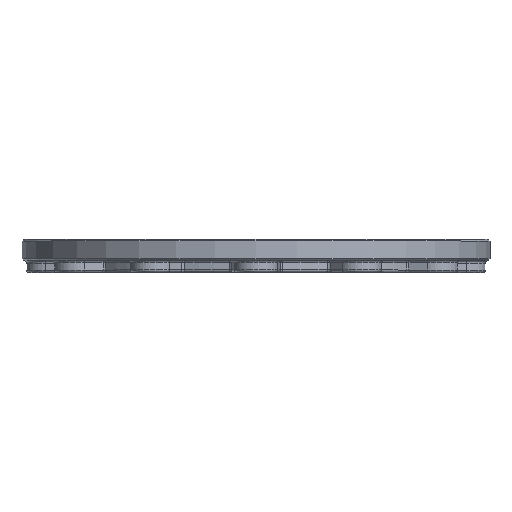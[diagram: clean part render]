
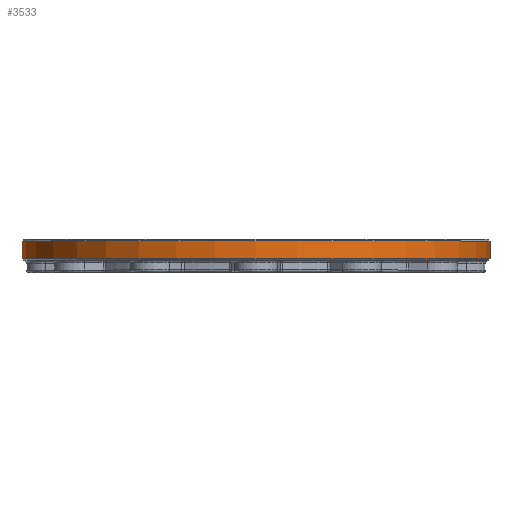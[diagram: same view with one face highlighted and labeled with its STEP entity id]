
A CAD part, top view. The second image highlights one B-rep face of the part: STEP entity #3533.
In plain terms, the highlighted cylindrical face has radius 197.5 mm (diameter 395 mm), a full revolution.
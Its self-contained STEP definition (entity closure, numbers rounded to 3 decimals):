
#571=ORIENTED_EDGE('',*,*,#1597,.T.);
#572=ORIENTED_EDGE('',*,*,#1598,.T.);
#1597=EDGE_CURVE('',#2121,#2121,#2435,.F.);
#1598=EDGE_CURVE('',#2122,#2122,#2436,.T.);
#2121=VERTEX_POINT('',#5891);
#2122=VERTEX_POINT('',#5893);
#2435=CIRCLE('',#3848,197.5);
#2436=CIRCLE('',#3849,197.5);
#2811=EDGE_LOOP('',(#571));
#2812=EDGE_LOOP('',(#572));
#3135=FACE_BOUND('',#2811,.T.);
#3136=FACE_BOUND('',#2812,.T.);
#3403=CYLINDRICAL_SURFACE('',#3847,197.5);
#3533=ADVANCED_FACE('',(#3135,#3136),#3403,.T.);
#3847=AXIS2_PLACEMENT_3D('',#5889,#4538,#4539);
#3848=AXIS2_PLACEMENT_3D('',#5890,#4540,#4541);
#3849=AXIS2_PLACEMENT_3D('',#5892,#4542,#4543);
#4538=DIRECTION('',(0.,-1.,0.));
#4539=DIRECTION('',(0.,0.,-1.));
#4540=DIRECTION('',(0.,1.,0.));
#4541=DIRECTION('',(0.,0.,1.));
#4542=DIRECTION('',(0.,1.,0.));
#4543=DIRECTION('',(0.,0.,1.));
#5889=CARTESIAN_POINT('',(0.,28.,0.));
#5890=CARTESIAN_POINT('',(0.,26.5,0.));
#5891=CARTESIAN_POINT('',(0.,26.5,197.5));
#5892=CARTESIAN_POINT('',(0.,11.5,0.));
#5893=CARTESIAN_POINT('',(0.,11.5,197.5));
